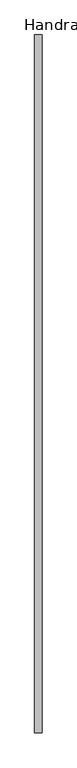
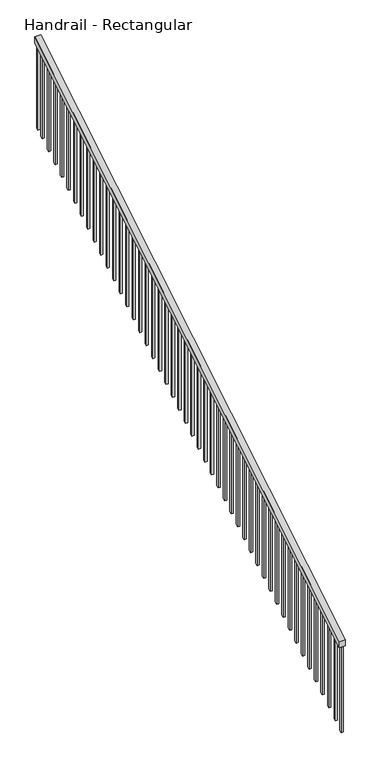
"""IFC4 building model written with IfcOpenShell, lengths in millimetres: railing geometry, Handrail - Rectangular."""

from ifc_helpers import new_model, si_unit, frame, origin, place, context, project, spatial, polyline, outline, extrude, source, transform, mapped, element, save


def handrail_rectangular_47b17547(model_context):
    return source(origin(), model_context, "Body", "SweptSolid", [
        extrude(outline(polyline([(-7727.6411799, 1024.3318731), (-7727.6411799, 1083.7333333), (-2977.8411799, 3962.4), (-2977.8411799, 3902.9985397), (-7727.6411799, 1024.3318731)])), frame((-2460.9500398, 0.0, 0.0), z_axis=(1.0, 0.0, 0.0), x_axis=(0.0, 1.0, 0.0)), (0.0, 0.0, 1.0), 50.8),
        extrude(outline(polyline([(-3044.5161799, 3862.5894488), (-3044.5161799, 3050.3720877), (-3063.5661799, 3038.8266332), (-3063.5661799, 3851.0439943), (-3044.5161799, 3862.5894488)])), frame((-2445.0750398, 0.0, 0.0), z_axis=(1.0, 0.0, 0.0), x_axis=(0.0, 1.0, 0.0)), (0.0, 0.0, 1.0), 19.05),
        extrude(outline(polyline([(-3146.1161799, 3801.0136913), (-3146.1161799, 2988.7963301), (-3165.1661799, 2977.2508756), (-3165.1661799, 3789.4682367), (-3146.1161799, 3801.0136913)])), frame((-2445.0750398, 0.0, 0.0), z_axis=(1.0, 0.0, 0.0), x_axis=(0.0, 1.0, 0.0)), (0.0, 0.0, 1.0), 19.05),
        extrude(outline(polyline([(-3247.7161799, 3739.4379337), (-3247.7161799, 2927.2205726), (-3266.7661799, 2915.675118), (-3266.7661799, 3727.8924791), (-3247.7161799, 3739.4379337)])), frame((-2445.0750398, 0.0, 0.0), z_axis=(1.0, 0.0, 0.0), x_axis=(0.0, 1.0, 0.0)), (0.0, 0.0, 1.0), 19.05),
        extrude(outline(polyline([(-3349.3161799, 3677.8621761), (-3349.3161799, 2865.644815), (-3368.3661799, 2854.0993604), (-3368.3661799, 3666.3167216), (-3349.3161799, 3677.8621761)])), frame((-2445.0750398, 0.0, 0.0), z_axis=(1.0, 0.0, 0.0), x_axis=(0.0, 1.0, 0.0)), (0.0, 0.0, 1.0), 19.05),
        extrude(outline(polyline([(-3450.9161799, 3616.2864185), (-3450.9161799, 2804.0690574), (-3469.9661799, 2792.5236029), (-3469.9661799, 3604.740964), (-3450.9161799, 3616.2864185)])), frame((-2445.0750398, 0.0, 0.0), z_axis=(1.0, 0.0, 0.0), x_axis=(0.0, 1.0, 0.0)), (0.0, 0.0, 1.0), 19.05),
        extrude(outline(polyline([(-3552.5161799, 3554.710661), (-3552.5161799, 2742.4932998), (-3571.5661799, 2730.9478453), (-3571.5661799, 3543.1652064), (-3552.5161799, 3554.710661)])), frame((-2445.0750398, 0.0, 0.0), z_axis=(1.0, 0.0, 0.0), x_axis=(0.0, 1.0, 0.0)), (0.0, 0.0, 1.0), 19.05),
        extrude(outline(polyline([(-3654.1161799, 3493.1349034), (-3654.1161799, 2680.9175423), (-3673.1661799, 2669.3720877), (-3673.1661799, 3481.5894488), (-3654.1161799, 3493.1349034)])), frame((-2445.0750398, 0.0, 0.0), z_axis=(1.0, 0.0, 0.0), x_axis=(0.0, 1.0, 0.0)), (0.0, 0.0, 1.0), 19.05),
        extrude(outline(polyline([(-3755.7161799, 3431.5591458), (-3755.7161799, 2619.3417847), (-3774.7661799, 2607.7963301), (-3774.7661799, 3420.0136913), (-3755.7161799, 3431.5591458)])), frame((-2445.0750398, 0.0, 0.0), z_axis=(1.0, 0.0, 0.0), x_axis=(0.0, 1.0, 0.0)), (0.0, 0.0, 1.0), 19.05),
        extrude(outline(polyline([(-3857.3161799, 3369.9833882), (-3857.3161799, 2557.7660271), (-3876.3661799, 2546.2205726), (-3876.3661799, 3358.4379337), (-3857.3161799, 3369.9833882)])), frame((-2445.0750398, 0.0, 0.0), z_axis=(1.0, 0.0, 0.0), x_axis=(0.0, 1.0, 0.0)), (0.0, 0.0, 1.0), 19.05),
        extrude(outline(polyline([(-3958.9161799, 3308.4076307), (-3958.9161799, 2496.1902695), (-3977.9661799, 2484.644815), (-3977.9661799, 3296.8621761), (-3958.9161799, 3308.4076307)])), frame((-2445.0750398, 0.0, 0.0), z_axis=(1.0, 0.0, 0.0), x_axis=(0.0, 1.0, 0.0)), (0.0, 0.0, 1.0), 19.05),
        extrude(outline(polyline([(-4060.5161799, 3246.8318731), (-4060.5161799, 2434.614512), (-4079.5661799, 2423.0690574), (-4079.5661799, 3235.2864185), (-4060.5161799, 3246.8318731)])), frame((-2445.0750398, 0.0, 0.0), z_axis=(1.0, 0.0, 0.0), x_axis=(0.0, 1.0, 0.0)), (0.0, 0.0, 1.0), 19.05),
        extrude(outline(polyline([(-4162.1161799, 3185.2561155), (-4162.1161799, 2373.0387544), (-4181.1661799, 2361.4932998), (-4181.1661799, 3173.710661), (-4162.1161799, 3185.2561155)])), frame((-2445.0750398, 0.0, 0.0), z_axis=(1.0, 0.0, 0.0), x_axis=(0.0, 1.0, 0.0)), (0.0, 0.0, 1.0), 19.05),
        extrude(outline(polyline([(-4263.7161799, 3123.6803579), (-4263.7161799, 2311.4629968), (-4282.7661799, 2299.9175423), (-4282.7661799, 3112.1349034), (-4263.7161799, 3123.6803579)])), frame((-2445.0750398, 0.0, 0.0), z_axis=(1.0, 0.0, 0.0), x_axis=(0.0, 1.0, 0.0)), (0.0, 0.0, 1.0), 19.05),
        extrude(outline(polyline([(-4365.3161799, 3062.1046004), (-4365.3161799, 2249.8872392), (-4384.3661799, 2238.3417847), (-4384.3661799, 3050.5591458), (-4365.3161799, 3062.1046004)])), frame((-2445.0750398, 0.0, 0.0), z_axis=(1.0, 0.0, 0.0), x_axis=(0.0, 1.0, 0.0)), (0.0, 0.0, 1.0), 19.05),
        extrude(outline(polyline([(-4466.9161799, 3000.5288428), (-4466.9161799, 2188.3114817), (-4485.9661799, 2176.7660271), (-4485.9661799, 2988.9833882), (-4466.9161799, 3000.5288428)])), frame((-2445.0750398, 0.0, 0.0), z_axis=(1.0, 0.0, 0.0), x_axis=(0.0, 1.0, 0.0)), (0.0, 0.0, 1.0), 19.05),
        extrude(outline(polyline([(-4568.5161799, 2938.9530852), (-4568.5161799, 2126.7357241), (-4587.5661799, 2115.1902695), (-4587.5661799, 2927.4076307), (-4568.5161799, 2938.9530852)])), frame((-2445.0750398, 0.0, 0.0), z_axis=(1.0, 0.0, 0.0), x_axis=(0.0, 1.0, 0.0)), (0.0, 0.0, 1.0), 19.05),
        extrude(outline(polyline([(-4670.1161799, 2877.3773276), (-4670.1161799, 2065.1599665), (-4689.1661799, 2053.614512), (-4689.1661799, 2865.8318731), (-4670.1161799, 2877.3773276)])), frame((-2445.0750398, 0.0, 0.0), z_axis=(1.0, 0.0, 0.0), x_axis=(0.0, 1.0, 0.0)), (0.0, 0.0, 1.0), 19.05),
        extrude(outline(polyline([(-4771.7161799, 2815.80157), (-4771.7161799, 2003.5842089), (-4790.7661799, 1992.0387544), (-4790.7661799, 2804.2561155), (-4771.7161799, 2815.80157)])), frame((-2445.0750398, 0.0, 0.0), z_axis=(1.0, 0.0, 0.0), x_axis=(0.0, 1.0, 0.0)), (0.0, 0.0, 1.0), 19.05),
        extrude(outline(polyline([(-4873.3161799, 2754.2258125), (-4873.3161799, 1942.0084514), (-4892.3661799, 1930.4629968), (-4892.3661799, 2742.6803579), (-4873.3161799, 2754.2258125)])), frame((-2445.0750398, 0.0, 0.0), z_axis=(1.0, 0.0, 0.0), x_axis=(0.0, 1.0, 0.0)), (0.0, 0.0, 1.0), 19.05),
        extrude(outline(polyline([(-4974.9161799, 2692.6500549), (-4974.9161799, 1880.4326938), (-4993.9661799, 1868.8872392), (-4993.9661799, 2681.1046004), (-4974.9161799, 2692.6500549)])), frame((-2445.0750398, 0.0, 0.0), z_axis=(1.0, 0.0, 0.0), x_axis=(0.0, 1.0, 0.0)), (0.0, 0.0, 1.0), 19.05),
        extrude(outline(polyline([(-5076.5161799, 2631.0742973), (-5076.5161799, 1818.8569362), (-5095.5661799, 1807.3114817), (-5095.5661799, 2619.5288428), (-5076.5161799, 2631.0742973)])), frame((-2445.0750398, 0.0, 0.0), z_axis=(1.0, 0.0, 0.0), x_axis=(0.0, 1.0, 0.0)), (0.0, 0.0, 1.0), 19.05),
        extrude(outline(polyline([(-5178.1161799, 2569.4985397), (-5178.1161799, 1757.2811786), (-5197.1661799, 1745.7357241), (-5197.1661799, 2557.9530852), (-5178.1161799, 2569.4985397)])), frame((-2445.0750398, 0.0, 0.0), z_axis=(1.0, 0.0, 0.0), x_axis=(0.0, 1.0, 0.0)), (0.0, 0.0, 1.0), 19.05),
        extrude(outline(polyline([(-5279.7161799, 2507.9227822), (-5279.7161799, 1695.7054211), (-5298.7661799, 1684.1599665), (-5298.7661799, 2496.3773276), (-5279.7161799, 2507.9227822)])), frame((-2445.0750398, 0.0, 0.0), z_axis=(1.0, 0.0, 0.0), x_axis=(0.0, 1.0, 0.0)), (0.0, 0.0, 1.0), 19.05),
        extrude(outline(polyline([(-5381.3161799, 2446.3470246), (-5381.3161799, 1634.1296635), (-5400.3661799, 1622.5842089), (-5400.3661799, 2434.80157), (-5381.3161799, 2446.3470246)])), frame((-2445.0750398, 0.0, 0.0), z_axis=(1.0, 0.0, 0.0), x_axis=(0.0, 1.0, 0.0)), (0.0, 0.0, 1.0), 19.05),
        extrude(outline(polyline([(-5482.9161799, 2384.771267), (-5482.9161799, 1572.5539059), (-5501.9661799, 1561.0084514), (-5501.9661799, 2373.2258125), (-5482.9161799, 2384.771267)])), frame((-2445.0750398, 0.0, 0.0), z_axis=(1.0, 0.0, 0.0), x_axis=(0.0, 1.0, 0.0)), (0.0, 0.0, 1.0), 19.05),
        extrude(outline(polyline([(-5584.5161799, 2323.1955094), (-5584.5161799, 1510.9781483), (-5603.5661799, 1499.4326938), (-5603.5661799, 2311.6500549), (-5584.5161799, 2323.1955094)])), frame((-2445.0750398, 0.0, 0.0), z_axis=(1.0, 0.0, 0.0), x_axis=(0.0, 1.0, 0.0)), (0.0, 0.0, 1.0), 19.05),
        extrude(outline(polyline([(-5686.1161799, 2261.6197519), (-5686.1161799, 1449.4023907), (-5705.1661799, 1437.8569362), (-5705.1661799, 2250.0742973), (-5686.1161799, 2261.6197519)])), frame((-2445.0750398, 0.0, 0.0), z_axis=(1.0, 0.0, 0.0), x_axis=(0.0, 1.0, 0.0)), (0.0, 0.0, 1.0), 19.05),
        extrude(outline(polyline([(-5787.7161799, 2200.0439943), (-5787.7161799, 1387.8266332), (-5806.7661799, 1376.2811786), (-5806.7661799, 2188.4985397), (-5787.7161799, 2200.0439943)])), frame((-2445.0750398, 0.0, 0.0), z_axis=(1.0, 0.0, 0.0), x_axis=(0.0, 1.0, 0.0)), (0.0, 0.0, 1.0), 19.05),
        extrude(outline(polyline([(-5889.3161799, 2138.4682367), (-5889.3161799, 1326.2508756), (-5908.3661799, 1314.7054211), (-5908.3661799, 2126.9227822), (-5889.3161799, 2138.4682367)])), frame((-2445.0750398, 0.0, 0.0), z_axis=(1.0, 0.0, 0.0), x_axis=(0.0, 1.0, 0.0)), (0.0, 0.0, 1.0), 19.05),
        extrude(outline(polyline([(-5990.9161799, 2076.8924791), (-5990.9161799, 1264.675118), (-6009.9661799, 1253.1296635), (-6009.9661799, 2065.3470246), (-5990.9161799, 2076.8924791)])), frame((-2445.0750398, 0.0, 0.0), z_axis=(1.0, 0.0, 0.0), x_axis=(0.0, 1.0, 0.0)), (0.0, 0.0, 1.0), 19.05),
        extrude(outline(polyline([(-6092.5161799, 2015.3167216), (-6092.5161799, 1203.0993604), (-6111.5661799, 1191.5539059), (-6111.5661799, 2003.771267), (-6092.5161799, 2015.3167216)])), frame((-2445.0750398, 0.0, 0.0), z_axis=(1.0, 0.0, 0.0), x_axis=(0.0, 1.0, 0.0)), (0.0, 0.0, 1.0), 19.05),
        extrude(outline(polyline([(-6194.1161799, 1953.740964), (-6194.1161799, 1141.5236029), (-6213.1661799, 1129.9781483), (-6213.1661799, 1942.1955094), (-6194.1161799, 1953.740964)])), frame((-2445.0750398, 0.0, 0.0), z_axis=(1.0, 0.0, 0.0), x_axis=(0.0, 1.0, 0.0)), (0.0, 0.0, 1.0), 19.05),
        extrude(outline(polyline([(-6295.7161799, 1892.1652064), (-6295.7161799, 1079.9478453), (-6314.7661799, 1068.4023907), (-6314.7661799, 1880.6197519), (-6295.7161799, 1892.1652064)])), frame((-2445.0750398, 0.0, 0.0), z_axis=(1.0, 0.0, 0.0), x_axis=(0.0, 1.0, 0.0)), (0.0, 0.0, 1.0), 19.05),
        extrude(outline(polyline([(-6397.3161799, 1830.5894488), (-6397.3161799, 1018.3720877), (-6416.3661799, 1006.8266332), (-6416.3661799, 1819.0439943), (-6397.3161799, 1830.5894488)])), frame((-2445.0750398, 0.0, 0.0), z_axis=(1.0, 0.0, 0.0), x_axis=(0.0, 1.0, 0.0)), (0.0, 0.0, 1.0), 19.05),
        extrude(outline(polyline([(-6498.9161799, 1769.0136913), (-6498.9161799, 956.7963301), (-6517.9661799, 945.2508756), (-6517.9661799, 1757.4682367), (-6498.9161799, 1769.0136913)])), frame((-2445.0750398, 0.0, 0.0), z_axis=(1.0, 0.0, 0.0), x_axis=(0.0, 1.0, 0.0)), (0.0, 0.0, 1.0), 19.05),
        extrude(outline(polyline([(-6600.5161799, 1707.4379337), (-6600.5161799, 895.2205726), (-6619.5661799, 883.675118), (-6619.5661799, 1695.8924791), (-6600.5161799, 1707.4379337)])), frame((-2445.0750398, 0.0, 0.0), z_axis=(1.0, 0.0, 0.0), x_axis=(0.0, 1.0, 0.0)), (0.0, 0.0, 1.0), 19.05),
        extrude(outline(polyline([(-6702.1161799, 1645.8621761), (-6702.1161799, 833.644815), (-6721.1661799, 822.0993604), (-6721.1661799, 1634.3167216), (-6702.1161799, 1645.8621761)])), frame((-2445.0750398, 0.0, 0.0), z_axis=(1.0, 0.0, 0.0), x_axis=(0.0, 1.0, 0.0)), (0.0, 0.0, 1.0), 19.05),
        extrude(outline(polyline([(-6803.7161799, 1584.2864185), (-6803.7161799, 772.0690574), (-6822.7661799, 760.5236029), (-6822.7661799, 1572.740964), (-6803.7161799, 1584.2864185)])), frame((-2445.0750398, 0.0, 0.0), z_axis=(1.0, 0.0, 0.0), x_axis=(0.0, 1.0, 0.0)), (0.0, 0.0, 1.0), 19.05),
        extrude(outline(polyline([(-6905.3161799, 1522.710661), (-6905.3161799, 710.4932998), (-6924.3661799, 698.9478453), (-6924.3661799, 1511.1652064), (-6905.3161799, 1522.710661)])), frame((-2445.0750398, 0.0, 0.0), z_axis=(1.0, 0.0, 0.0), x_axis=(0.0, 1.0, 0.0)), (0.0, 0.0, 1.0), 19.05),
        extrude(outline(polyline([(-7006.9161799, 1461.1349034), (-7006.9161799, 648.9175423), (-7025.9661799, 637.3720877), (-7025.9661799, 1449.5894488), (-7006.9161799, 1461.1349034)])), frame((-2445.0750398, 0.0, 0.0), z_axis=(1.0, 0.0, 0.0), x_axis=(0.0, 1.0, 0.0)), (0.0, 0.0, 1.0), 19.05),
        extrude(outline(polyline([(-7108.5161799, 1399.5591458), (-7108.5161799, 587.3417847), (-7127.5661799, 575.7963301), (-7127.5661799, 1388.0136913), (-7108.5161799, 1399.5591458)])), frame((-2445.0750398, 0.0, 0.0), z_axis=(1.0, 0.0, 0.0), x_axis=(0.0, 1.0, 0.0)), (0.0, 0.0, 1.0), 19.05),
        extrude(outline(polyline([(-7210.1161799, 1337.9833882), (-7210.1161799, 525.7660271), (-7229.1661799, 514.2205726), (-7229.1661799, 1326.4379337), (-7210.1161799, 1337.9833882)])), frame((-2445.0750398, 0.0, 0.0), z_axis=(1.0, 0.0, 0.0), x_axis=(0.0, 1.0, 0.0)), (0.0, 0.0, 1.0), 19.05),
        extrude(outline(polyline([(-7311.7161799, 1276.4076307), (-7311.7161799, 464.1902695), (-7330.7661799, 452.644815), (-7330.7661799, 1264.8621761), (-7311.7161799, 1276.4076307)])), frame((-2445.0750398, 0.0, 0.0), z_axis=(1.0, 0.0, 0.0), x_axis=(0.0, 1.0, 0.0)), (0.0, 0.0, 1.0), 19.05),
        extrude(outline(polyline([(-7413.3161799, 1214.8318731), (-7413.3161799, 402.614512), (-7432.3661799, 391.0690574), (-7432.3661799, 1203.2864185), (-7413.3161799, 1214.8318731)])), frame((-2445.0750398, 0.0, 0.0), z_axis=(1.0, 0.0, 0.0), x_axis=(0.0, 1.0, 0.0)), (0.0, 0.0, 1.0), 19.05),
        extrude(outline(polyline([(-7514.9161799, 1153.2561155), (-7514.9161799, 341.0387544), (-7533.9661799, 329.4932998), (-7533.9661799, 1141.710661), (-7514.9161799, 1153.2561155)])), frame((-2445.0750398, 0.0, 0.0), z_axis=(1.0, 0.0, 0.0), x_axis=(0.0, 1.0, 0.0)), (0.0, 0.0, 1.0), 19.05),
        extrude(outline(polyline([(-7616.5161799, 1091.6803579), (-7616.5161799, 279.4629968), (-7635.5661799, 267.9175423), (-7635.5661799, 1080.1349034), (-7616.5161799, 1091.6803579)])), frame((-2445.0750398, 0.0, 0.0), z_axis=(1.0, 0.0, 0.0), x_axis=(0.0, 1.0, 0.0)), (0.0, 0.0, 1.0), 19.05),
        extrude(outline(polyline([(-2977.8411799, 3902.9985397), (-2977.8411799, 3090.7811786), (-2996.8911799, 3079.2357241), (-2996.8911799, 3891.4530852), (-2977.8411799, 3902.9985397)])), frame((-2445.0750398, 0.0, 0.0), z_axis=(1.0, 0.0, 0.0), x_axis=(0.0, 1.0, 0.0)), (0.0, 0.0, 1.0), 19.05),
        extrude(outline(polyline([(-7708.5911799, 1035.8773276), (-7708.5911799, 223.6599665), (-7727.6411799, 212.114512), (-7727.6411799, 1024.3318731), (-7708.5911799, 1035.8773276)])), frame((-2445.0750398, 0.0, 0.0), z_axis=(1.0, 0.0, 0.0), x_axis=(0.0, 1.0, 0.0)), (0.0, 0.0, 1.0), 19.05),
    ])


if __name__ == "__main__":
    model = new_model("IFC4")
    model_context = context("Model", 3, world=origin())
    ifc_project = project(units=[si_unit("LENGTHUNIT", "METRE", prefix="MILLI")], contexts=[model_context])
    site = spatial("IfcSite", under=ifc_project)
    building = spatial("IfcBuilding", under=site)
    placement = place(None, origin())
    handrail_rectangular_shape = handrail_rectangular_47b17547(model_context)
    element("IfcRailing", 1, ObjectType="Handrail - Rectangular", at=placement, inside=building, context=model_context, shape_type="MappedRepresentation", body=[
        mapped(handrail_rectangular_shape, transform((0.0, 0.0, 0.0), x_axis=(1.0, 0.0, 0.0), y_axis=(0.0, 1.0, 0.0), z_axis=(0.0, 0.0, 1.0))),
    ])
    save(model, "model.ifc")
